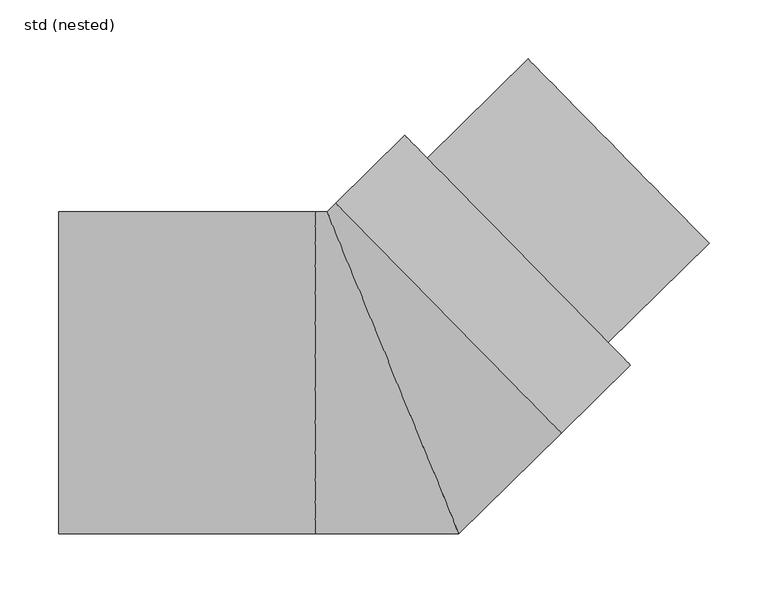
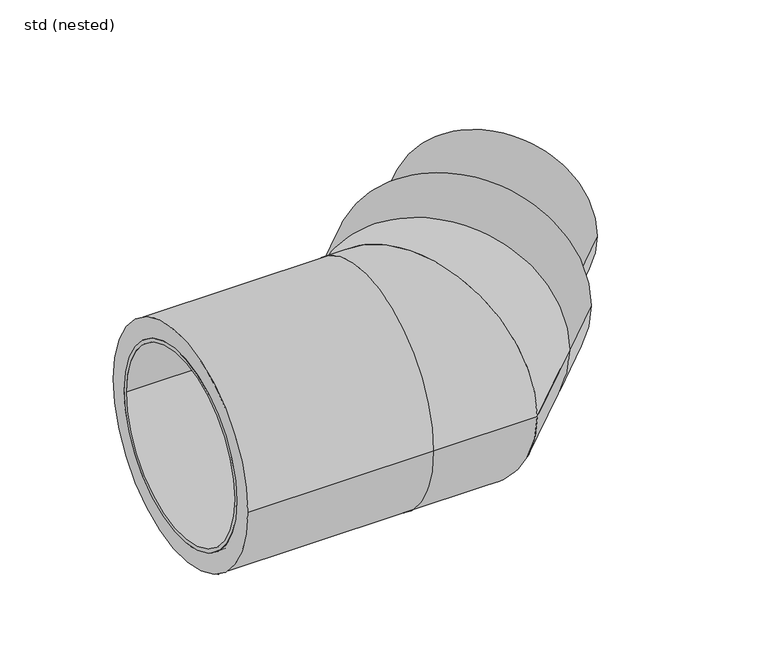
"""IFC4 building model written with IfcOpenShell, lengths in millimetres: pipe fitting geometry, ZZZ_do not use_PIF_ST_WPB_GM-X compound pipe bend_ACO : std (nested)."""

import ifcopenshell
import ifcopenshell.guid

model = None  # the IFC model being written
_history = None  # IfcOwnerHistory: only IFC2X3 demands one
_inside = {}  # id of a spatial element -> (the spatial element, [elements in it])
_under = {}  # id of a project, library or spatial element -> (it, [spatial elements below it])
_declared = {}  # id of a project -> (the project, [libraries it declares])
_typed = {}  # id of a type object -> (the type object, [elements of that type])
_made_of = {}  # id of a material, layer set ... -> (it, [elements and type objects made of it])


def new_model(schema):
    """Start an empty IFC model of exactly this schema.

    Asked for "IFC4X3", IfcOpenShell would pick the latest addendum, in which some entities
    have other attributes; the version numbers below select the first issue.
    IFC2X3 requires an IfcOwnerHistory on every rooted entity: one is made here for all.
    """
    global model, _history
    if schema == "IFC4X3":
        model = ifcopenshell.file(schema_version=(4, 3, 0, 0))
    else:
        model = ifcopenshell.file(schema=schema)
    _inside.clear()
    _under.clear()
    _declared.clear()
    _typed.clear()
    _made_of.clear()
    _history = None
    if model.schema == "IFC2X3":
        org = make("IfcOrganization", Name="unknown")
        user = make(
            "IfcPersonAndOrganization",
            ThePerson=make("IfcPerson", FamilyName="unknown"),
            TheOrganization=org,
        )
        app = make(
            "IfcApplication",
            ApplicationDeveloper=org,
            Version="unknown",
            ApplicationFullName="unknown",
            ApplicationIdentifier="unknown",
        )
        _history = make(
            "IfcOwnerHistory",
            OwningUser=user,
            OwningApplication=app,
            ChangeAction="ADDED",
            CreationDate=0,
        )
    return model


def make(cls, **values):
    """One entity of the class cls with the attributes given. An attribute that is None is left unset."""
    return model.create_entity(
        cls, **{name: value for name, value in values.items() if value is not None}
    )


def rooted(cls, **values):
    """An entity with a GlobalId (a new one), such as an element, a storey or a relation."""
    return make(cls, GlobalId=ifcopenshell.guid.new(), OwnerHistory=_history, **values)


def si_unit(unit_type, name, prefix=None):
    """IfcSIUnit, for example si_unit("LENGTHUNIT", "METRE", prefix="MILLI")."""
    return make("IfcSIUnit", UnitType=unit_type, Prefix=prefix, Name=name)


def assignment(units):
    """IfcUnitAssignment: the units of a project."""
    return None if units is None else make("IfcUnitAssignment", Units=units)


def point(xyz):
    """IfcCartesianPoint."""
    return None if xyz is None else make("IfcCartesianPoint", Coordinates=xyz)


def direction(xyz):
    """IfcDirection."""
    return None if xyz is None else make("IfcDirection", DirectionRatios=xyz)


def frame(location, z_axis=None, x_axis=None):
    """IfcAxis2Placement3D, a coordinate frame: its origin and axes. An axis left out is left unset."""
    return make(
        "IfcAxis2Placement3D",
        Location=point(location),
        Axis=direction(z_axis),
        RefDirection=direction(x_axis),
    )


def frame_2d(location, x_axis=None):
    """IfcAxis2Placement2D, a coordinate frame in the plane: its origin and x axis."""
    return make(
        "IfcAxis2Placement2D", Location=point(location), RefDirection=direction(x_axis)
    )


def origin():
    """The frame at (0, 0, 0) with its axes left unset."""
    return frame((0.0, 0.0, 0.0))


def place(relative_to, where):
    """IfcLocalPlacement: puts the frame where relative to a parent placement (None: the world)."""
    return make(
        "IfcLocalPlacement", PlacementRelTo=relative_to, RelativePlacement=where
    )


def context(
    kind, dimensions, precision=None, world=None, true_north=None, identifier=None
):
    """IfcGeometricRepresentationContext, for example the 3D "Model" context."""
    return make(
        "IfcGeometricRepresentationContext",
        ContextIdentifier=identifier,
        ContextType=kind,
        CoordinateSpaceDimension=dimensions,
        Precision=precision,
        WorldCoordinateSystem=world,
        TrueNorth=true_north,
    )


def project(units=None, contexts=None):
    """IfcProject with its units and contexts."""
    return rooted(
        "IfcProject",
        Name="project",
        RepresentationContexts=contexts,
        UnitsInContext=assignment(units),
    )


def spatial(cls, under=None, at=None, **own):
    """A site, building, storey or space (cls), placed at a placement, below another one or the project."""
    s = rooted(cls, ObjectPlacement=at, **own)
    if under is not None:
        _under.setdefault(under.id(), (under, []))[1].append(s)
    return s


def polyline(points):
    """IfcPolyline through the points."""
    return make("IfcPolyline", Points=[point(p) for p in points])


def circle_curve(where, radius):
    """IfcCircle in the frame where."""
    return make("IfcCircle", Position=where, Radius=radius)


def ellipse_curve(where, semi_axis1, semi_axis2):
    """IfcEllipse in the frame where."""
    return make(
        "IfcEllipse", Position=where, SemiAxis1=semi_axis1, SemiAxis2=semi_axis2
    )


def trimmed(basis, trim1, trim2, sense, master):
    """IfcTrimmedCurve: the piece of a basis curve between two trims."""
    return make(
        "IfcTrimmedCurve",
        BasisCurve=basis,
        Trim1=trim1,
        Trim2=trim2,
        SenseAgreement=sense,
        MasterRepresentation=master,
    )


def segment(curve, same_sense, transition):
    """IfcCompositeCurveSegment."""
    return make(
        "IfcCompositeCurveSegment",
        Transition=transition,
        SameSense=same_sense,
        ParentCurve=curve,
    )


def composite_curve(segments, self_intersect=None):
    """IfcCompositeCurve: segments joined end to end."""
    return make("IfcCompositeCurve", Segments=segments, SelfIntersect=self_intersect)


def outline(outer, holes=None, kind="AREA"):
    """IfcArbitraryClosedProfileDef: a profile drawn as a closed curve; with holes, ...WithVoids."""
    if holes is None:
        return make("IfcArbitraryClosedProfileDef", ProfileType=kind, OuterCurve=outer)
    return make(
        "IfcArbitraryProfileDefWithVoids",
        ProfileType=kind,
        OuterCurve=outer,
        InnerCurves=holes,
    )


def extrude(swept, where, along, depth):
    """IfcExtrudedAreaSolid: the profile swept, set in the frame where, extruded along a direction by depth."""
    return make(
        "IfcExtrudedAreaSolid",
        SweptArea=swept,
        Position=where,
        ExtrudedDirection=direction(along),
        Depth=depth,
    )


def shape(context_of_items, identifier, shape_type, items):
    """IfcShapeRepresentation: the items that make up one representation, for example the "Body"."""
    return make(
        "IfcShapeRepresentation",
        ContextOfItems=context_of_items,
        RepresentationIdentifier=identifier,
        RepresentationType=shape_type,
        Items=items,
    )


def source(mapping_origin, context_of_items, identifier, shape_type, items):
    """IfcRepresentationMap: a shape defined once, which mapped items show again and again."""
    return make(
        "IfcRepresentationMap",
        MappingOrigin=mapping_origin,
        MappedRepresentation=shape(context_of_items, identifier, shape_type, items),
    )


def transform(
    local_origin,
    x_axis=None,
    y_axis=None,
    z_axis=None,
    scale=None,
    scale2=None,
    scale3=None,
    uniform=True,
):
    """IfcCartesianTransformationOperator3D, or its non-uniform kind. x_axis, y_axis, z_axis: its Axis1, 2, 3."""
    if uniform:
        return make(
            "IfcCartesianTransformationOperator3D",
            Axis1=direction(x_axis),
            Axis2=direction(y_axis),
            LocalOrigin=point(local_origin),
            Scale=scale,
            Axis3=direction(z_axis),
        )
    return make(
        "IfcCartesianTransformationOperator3DnonUniform",
        Axis1=direction(x_axis),
        Axis2=direction(y_axis),
        LocalOrigin=point(local_origin),
        Scale=scale,
        Axis3=direction(z_axis),
        Scale2=scale2,
        Scale3=scale3,
    )


def mapped(mapping_source, mapping_target):
    """IfcMappedItem: shows the shape of a source again, moved by a transform."""
    return make(
        "IfcMappedItem", MappingSource=mapping_source, MappingTarget=mapping_target
    )


def made_of(thing, what):
    """Note that an element or type object is made of a material, layer set ...; save() writes the relation."""
    if what is not None:
        _made_of.setdefault(what.id(), (what, []))[1].append(thing)
    return thing


def element(
    cls,
    number,
    at=None,
    inside=None,
    cuts=None,
    type_object=None,
    material=None,
    context=None,
    identifier="Body",
    shape_type=None,
    held_by="IfcProductDefinitionShape",
    body=None,
    shapes=None,
    **own,
):
    """One element of the class cls, such as IfcWall. Its Tag is "e" and its number.

    at: its placement. inside: the storey or other place that contains it. cuts: it is an
    opening in that element (IfcRelVoidsElement). A single representation is given by context,
    identifier, shape_type and body (its items); several are given by shapes. held_by: the class
    of the entity that holds the representations. save() writes the other relations.
    """
    e = rooted(cls, Tag="e%d" % number, ObjectPlacement=at, **own)
    if body is not None:
        shapes = [shape(context, identifier, shape_type, body)]
    if shapes is not None:
        e.Representation = make(held_by, Representations=shapes)
    if inside is not None:
        _inside.setdefault(inside.id(), (inside, []))[1].append(e)
    if cuts is not None:
        rooted(
            "IfcRelVoidsElement", RelatingBuildingElement=cuts, RelatedOpeningElement=e
        )
    if type_object is not None:
        _typed.setdefault(type_object.id(), (type_object, []))[1].append(e)
    return made_of(e, material)


def aggregate(whole, parts):
    """IfcRelAggregates: a whole, such as a stair, and the parts it consists of."""
    return rooted("IfcRelAggregates", RelatingObject=whole, RelatedObjects=parts)


def save(model, path):
    """Write the relations noted so far, then the file.

    IfcRelAggregates (storeys below a building ...), IfcRelContainedInSpatialStructure (elements
    in a storey), IfcRelDefinesByType, IfcRelAssociatesMaterial and IfcRelDeclares: one each for
    every whole, place, type object, material and project.
    """
    for whole, parts in _under.values():
        aggregate(whole, parts)
    for where, things in _inside.values():
        rooted(
            "IfcRelContainedInSpatialStructure",
            RelatedElements=things,
            RelatingStructure=where,
        )
    for kind, things in _typed.values():
        rooted("IfcRelDefinesByType", RelatedObjects=things, RelatingType=kind)
    for what, things in _made_of.values():
        rooted("IfcRelAssociatesMaterial", RelatedObjects=things, RelatingMaterial=what)
    for by, libraries in _declared.values():
        rooted("IfcRelDeclares", RelatingContext=by, RelatedDefinitions=libraries)
    model.write(path)


def plane_surface(at):
    """IfcPlane: the flat surface through the origin of the frame at, square to its z axis."""
    return make("IfcPlane", Position=at)


def cylinder_surface(at, radius):
    """IfcCylindricalSurface: all points at the distance radius from the z axis of the frame at."""
    return make("IfcCylindricalSurface", Position=at, Radius=radius)


def revolved_surface(curve, axis_point, axis_direction):
    """IfcSurfaceOfRevolution: the curve turned about the line through axis_point along axis_direction."""
    return make(
        "IfcSurfaceOfRevolution",
        SweptCurve=make("IfcArbitraryOpenProfileDef", ProfileType="CURVE", Curve=curve),
        AxisPosition=make("IfcAxis1Placement", Location=point(axis_point), Axis=direction(axis_direction)),
    )


def advanced_brep(points, edges, surfaces, faces):
    """IfcAdvancedBrep: a solid bounded by faces that lie on surfaces and meet in shared edges.

    An edge is (start, end): straight between two places in points (the first is 0);
    or (start, end, curve); or (start, end, curve, False) where it runs against its curve.
    A face is (place in surfaces, loops), or (place, loops, False) where it looks against
    its surface's normal. A loop lists edges by number (the first is 1), with a minus sign
    where the edge is run from its end to its start. The first loop is the outer one.
    """
    corners = [point(p) for p in points]
    vertices = [make("IfcVertexPoint", VertexGeometry=c) for c in corners]
    made = []
    for start, end, *more in edges:
        made.append(
            make(
                "IfcEdgeCurve",
                EdgeStart=vertices[start],
                EdgeEnd=vertices[end],
                EdgeGeometry=more[0] if more else make("IfcPolyline", Points=[corners[start], corners[end]]),
                SameSense=more[1] if len(more) > 1 else True,
            )
        )
    hull = []
    for where, loops, *sense in faces:
        bounds = []
        for j, loop in enumerate(loops):
            ring = [make("IfcOrientedEdge", EdgeElement=made[abs(k) - 1], Orientation=k > 0) for k in loop]
            bounds.append(
                make(
                    "IfcFaceOuterBound" if j == 0 else "IfcFaceBound",
                    Bound=make("IfcEdgeLoop", EdgeList=ring),
                    Orientation=True,
                )
            )
        hull.append(make("IfcAdvancedFace", Bounds=bounds, FaceSurface=surfaces[where], SameSense=sense[0] if sense else True))
    return make("IfcAdvancedBrep", Outer=make("IfcClosedShell", CfsFaces=hull))


def std_nested_d6c17223(model_context):
    return source(origin(), model_context, "Body", "SolidModel", [
        advanced_brep(
        [(-267.6, -123.7, 0.0), (-267.6, 123.7, 0.0), (-207.2, 123.7, 0.0), (-207.2, -123.7, 0.0), (-283.2, 114.0, 0.0), (-283.2, -114.0, 0.0), (-283.2, -109.5, 0.0), (-283.2, 109.5, 0.0), (-163.2, 114.0, 0.0), (-163.2, -114.0, 0.0), (-163.2, 109.5, 0.0), (-163.2, -109.5, 0.0), (-267.6, 114.0, 0.0), (-267.6, -114.0, 0.0), (-207.2, -114.0, 0.0), (-207.2, 114.0, 0.0)],
        [
            (0, 1, circle_curve(frame((-267.6, 0.0, 0.0), z_axis=(1.0, 0.0, 0.0), x_axis=(0.0, -1.0, 0.0)), 123.7)),
            (1, 2),
            (2, 3, circle_curve(frame((-207.2, 0.0, 0.0), z_axis=(-1.0, 0.0, 0.0), x_axis=(0.0, -1.0, 0.0)), 123.7)),
            (3, 0),
            (1, 0, circle_curve(frame((-267.6, 0.0, 0.0), z_axis=(1.0, 0.0, 0.0), x_axis=(0.0, -1.0, 0.0)), 123.7)),
            (3, 2, circle_curve(frame((-207.2, 0.0, 0.0), z_axis=(-1.0, 0.0, 0.0), x_axis=(0.0, -1.0, 0.0)), 123.7)),
            (4, 5, circle_curve(frame((-283.2, 0.0, 0.0), z_axis=(-1.0, 0.0, 0.0), x_axis=(0.0, -1.0, 0.0)), 114.0)),
            (5, 4, circle_curve(frame((-283.2, 0.0, 0.0), z_axis=(-1.0, 0.0, 0.0), x_axis=(0.0, -1.0, 0.0)), 114.0)),
            (6, 7, circle_curve(frame((-283.2, 0.0, 0.0), z_axis=(1.0, 0.0, 0.0), x_axis=(0.0, -1.0, 0.0)), 109.5)),
            (7, 6, circle_curve(frame((-283.2, 0.0, 0.0), z_axis=(1.0, 0.0, 0.0), x_axis=(0.0, -1.0, 0.0)), 109.5)),
            (8, 9, circle_curve(frame((-163.2, 0.0, 0.0), z_axis=(1.0, 0.0, 0.0), x_axis=(0.0, -1.0, 0.0)), 114.0)),
            (9, 8, circle_curve(frame((-163.2, 0.0, 0.0), z_axis=(1.0, 0.0, 0.0), x_axis=(0.0, -1.0, 0.0)), 114.0)),
            (10, 11, circle_curve(frame((-163.2, 0.0, 0.0), z_axis=(-1.0, 0.0, 0.0), x_axis=(0.0, -1.0, 0.0)), 109.5)),
            (11, 10, circle_curve(frame((-163.2, 0.0, 0.0), z_axis=(-1.0, 0.0, 0.0), x_axis=(0.0, -1.0, 0.0)), 109.5)),
            (4, 12),
            (12, 13, circle_curve(frame((-267.6, 0.0, 0.0), z_axis=(-1.0, 0.0, 0.0), x_axis=(0.0, -1.0, 0.0)), 114.0)),
            (13, 5),
            (9, 14),
            (14, 15, circle_curve(frame((-207.2, 0.0, 0.0), z_axis=(1.0, 0.0, 0.0), x_axis=(0.0, -1.0, 0.0)), 114.0)),
            (15, 8),
            (13, 12, circle_curve(frame((-267.6, 0.0, 0.0), z_axis=(-1.0, 0.0, 0.0), x_axis=(0.0, -1.0, 0.0)), 114.0)),
            (15, 14, circle_curve(frame((-207.2, 0.0, 0.0), z_axis=(1.0, 0.0, 0.0), x_axis=(0.0, -1.0, 0.0)), 114.0)),
            (6, 11),
            (10, 7),
        ],
        [
            cylinder_surface(frame((-207.2, 0.0, 0.0), z_axis=(-1.0, 0.0, 0.0), x_axis=(0.0, -1.0, 0.0)), 123.7),
            plane_surface(frame((-283.2, -114.0, 0.0), z_axis=(-1.0, 0.0, 0.0), x_axis=(0.0, 0.0, 1.0))),
            plane_surface(frame((-163.2, -114.0, 0.0), z_axis=(1.0, 0.0, 0.0), x_axis=(0.0, 0.0, -1.0))),
            cylinder_surface(frame((-163.2, 0.0, 0.0), z_axis=(-1.0, 0.0, 0.0), x_axis=(0.0, -1.0, 0.0)), 114.0),
            revolved_surface(polyline([(-283.2, -109.5, 0.0), (-163.2, -109.5, 0.0)]), (-163.2, 0.0, 0.0), (-1.0, 0.0, 0.0)),
            plane_surface(frame((-267.6, -123.7, 0.0), z_axis=(-1.0, 0.0, 0.0), x_axis=(0.0, 0.0, 1.0))),
            plane_surface(frame((-207.2, -123.7, 0.0), z_axis=(1.0, 0.0, 0.0), x_axis=(0.0, 0.0, -1.0))),
        ],
        [
            (0, [[1, 2, 3, 4]]),
            (0, [[5, -4, 6, -2]]),
            (1, [[7, 8], [9, 10]]),
            (2, [[11, 12], [13, 14]]),
            (3, [[-7, 15, 16, 17]]),
            (3, [[-12, 18, 19, 20]]),
            (3, [[-8, -17, 21, -15]]),
            (3, [[-11, -20, 22, -18]]),
            (4, [[23, -13, 24, -9]]),
            (4, [[-23, -10, -24, -14]]),
            (5, [[-1, -5], [-16, -21]]),
            (6, [[-6, -3], [-19, -22]]),
        ],
    ),
        extrude(outline(composite_curve([segment(trimmed(circle_curve(frame_2d((0.0, -109.5)), 109.5), [point((0.0, -219.0))], [point((0.0, 0.0))], False, "CARTESIAN"), True, "CONTINUOUS"), segment(trimmed(circle_curve(frame_2d((0.0, -109.5)), 109.5), [point((0.0, 0.0))], [point((0.0, -219.0))], False, "CARTESIAN"), True, "CONTINUOUS")], self_intersect=False)), frame((182.453281, 25.7738288, 0.0), z_axis=(0.7132504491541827, 0.7009092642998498, 0.0), x_axis=(0.0, 0.0, 1.0)), (0.0, 0.0, 1.0), 120.0),
        advanced_brep(
        [(-283.2, -136.5, 0.0), (-283.2, 136.5, 0.0), (-283.2, 114.0, 0.0), (-283.2, -114.0, 0.0), (-65.9486612, -136.5, 0.0), (-65.9486612, 136.5, 0.0), (55.8436244, -136.5, 0.0), (-55.8436244, 136.5, 0.0), (142.7120268, -51.1346587, 0.0), (-48.6362024, 143.5827139, 0.0), (-163.2, -114.0, 0.0), (-163.2, 114.0, 0.0), (10.029602, 201.2334393, 0.0), (201.3778311, 6.5160667, 0.0)],
        [
            (0, 1, circle_curve(frame((-283.2, 0.0, 0.0), z_axis=(-1.0, 0.0, 0.0), x_axis=(0.0, 1.0, 0.0)), 136.5)),
            (1, 0, circle_curve(frame((-283.2, 0.0, 0.0), z_axis=(-1.0, 0.0, 0.0), x_axis=(0.0, 1.0, 0.0)), 136.5)),
            (2, 3, circle_curve(frame((-283.2, 0.0, 0.0), z_axis=(1.0, 0.0, 0.0), x_axis=(0.0, 1.0, 0.0)), 114.0)),
            (3, 2, circle_curve(frame((-283.2, 0.0, 0.0), z_axis=(1.0, 0.0, 0.0), x_axis=(0.0, 1.0, 0.0)), 114.0)),
            (0, 4),
            (4, 5, circle_curve(frame((-65.9486612, 0.0, 0.0), z_axis=(-1.0, 0.0, 0.0), x_axis=(0.0, 1.0, 0.0)), 136.5)),
            (5, 1),
            (5, 4, circle_curve(frame((-65.9486612, 0.0, 0.0), z_axis=(-1.0, 0.0, 0.0), x_axis=(0.0, 1.0, 0.0)), 136.5)),
            (4, 6),
            (6, 7, ellipse_curve(frame((0.0, 0.0, 0.0), z_axis=(-0.9255405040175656, -0.3786486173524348, 0.0), x_axis=(-0.378648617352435, 0.9255405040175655, 0.0)), 147.48139, 136.5)),
            (7, 5),
            (7, 6, ellipse_curve(frame((0.0, 0.0, 0.0), z_axis=(-0.9255405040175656, -0.3786486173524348, 0.0), x_axis=(-0.378648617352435, 0.9255405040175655, 0.0)), 147.48139, 136.5)),
            (6, 8),
            (8, 9, circle_curve(frame((47.0379122, 46.2240276, 0.0), z_axis=(-0.71325044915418, -0.7009092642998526, 0.0), x_axis=(-0.7009092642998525, 0.7132504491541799, 0.0)), 136.5)),
            (9, 7),
            (9, 8, circle_curve(frame((47.0379122, 46.2240276, 0.0), z_axis=(-0.71325044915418, -0.7009092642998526, 0.0), x_axis=(-0.7009092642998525, 0.7132504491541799, 0.0)), 136.5)),
            (10, 11, circle_curve(frame((-163.2, 0.0, 0.0), z_axis=(-1.0, 0.0, 0.0), x_axis=(0.0, 1.0, 0.0)), 114.0)),
            (11, 10, circle_curve(frame((-163.2, 0.0, 0.0), z_axis=(-1.0, 0.0, 0.0), x_axis=(0.0, 1.0, 0.0)), 114.0)),
            (10, 3),
            (2, 11),
            (12, 13, circle_curve(frame((105.7037166, 103.874753, 0.0), z_axis=(0.7132504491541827, 0.7009092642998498, 0.0), x_axis=(0.7009092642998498, -0.7132504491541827, 0.0)), 136.5)),
            (13, 12, circle_curve(frame((105.7037166, 103.874753, 0.0), z_axis=(0.7132504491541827, 0.7009092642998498, 0.0), x_axis=(0.7009092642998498, -0.7132504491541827, 0.0)), 136.5)),
            (8, 13),
            (12, 9),
        ],
        [
            plane_surface(frame((-283.2, 136.5, 0.0), z_axis=(-1.0, 0.0, 0.0), x_axis=(0.0, 0.0, -1.0))),
            cylinder_surface(frame((-65.9486612, 0.0, 0.0), z_axis=(-1.0, 0.0, 0.0), x_axis=(0.0, 1.0, 0.0)), 136.5),
            cylinder_surface(frame((0.0, 0.0, 0.0), z_axis=(-0.7132504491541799, -0.7009092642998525, 0.0), x_axis=(-0.7009092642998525, 0.7132504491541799, 0.0)), 136.5),
            plane_surface(frame((-163.2, 114.0, 0.0), z_axis=(-1.0, 0.0, 0.0), x_axis=(0.0, 0.0, 1.0))),
            revolved_surface(polyline([(-283.2, 114.0, 0.0), (-163.2, 114.0, 0.0)]), (-163.2, 0.0, 0.0), (-1.0, 0.0, 0.0)),
            plane_surface(frame((201.3778311, 6.5160667, 0.0), z_axis=(0.7132504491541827, 0.7009092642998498, 0.0), x_axis=(0.0, 0.0, 1.0))),
            cylinder_surface(frame((47.0379122, 46.2240276, 0.0), z_axis=(0.7132504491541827, 0.7009092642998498, 0.0), x_axis=(0.7009092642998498, -0.7132504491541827, 0.0)), 136.5),
        ],
        [
            (0, [[1, 2], [3, 4]]),
            (1, [[-1, 5, 6, 7]]),
            (1, [[-2, -7, 8, -5]]),
            (1, [[9, 10, 11, -6]]),
            (1, [[-9, -8, -11, 12]]),
            (2, [[-10, 13, 14, 15]]),
            (2, [[-12, -15, 16, -13]]),
            (3, [[17, 18]]),
            (4, [[-17, 19, -3, 20]]),
            (4, [[-18, -20, -4, -19]]),
            (5, [[21, 22]]),
            (6, [[-14, 23, -21, 24]]),
            (6, [[-16, -24, -22, -23]]),
        ],
    ),
    ])


if __name__ == "__main__":
    model = new_model("IFC4")
    model_context = context("Model", 3, world=origin())
    ifc_project = project(units=[si_unit("LENGTHUNIT", "METRE", prefix="MILLI")], contexts=[model_context])
    site = spatial("IfcSite", under=ifc_project)
    building = spatial("IfcBuilding", under=site)
    placement = place(None, origin())
    std_nested_shape = std_nested_d6c17223(model_context)
    element("IfcPipeFitting", 1, ObjectType="ZZZ_do not use_PIF_ST_WPB_GM-X compound pipe bend_ACO : std (nested)", at=placement, inside=building, context=model_context, shape_type="MappedRepresentation", body=[
        mapped(std_nested_shape, transform((0.0, 0.0, 0.0), x_axis=(1.0, 0.0, 0.0), y_axis=(0.0, 1.0, 0.0), z_axis=(0.0, 0.0, 1.0))),
    ])
    save(model, "model.ifc")
